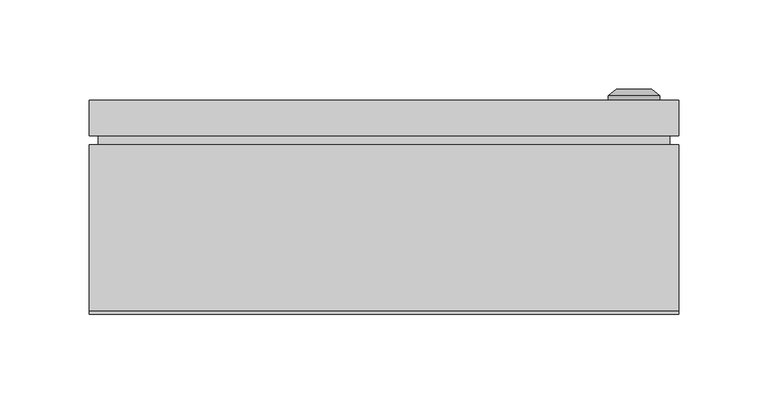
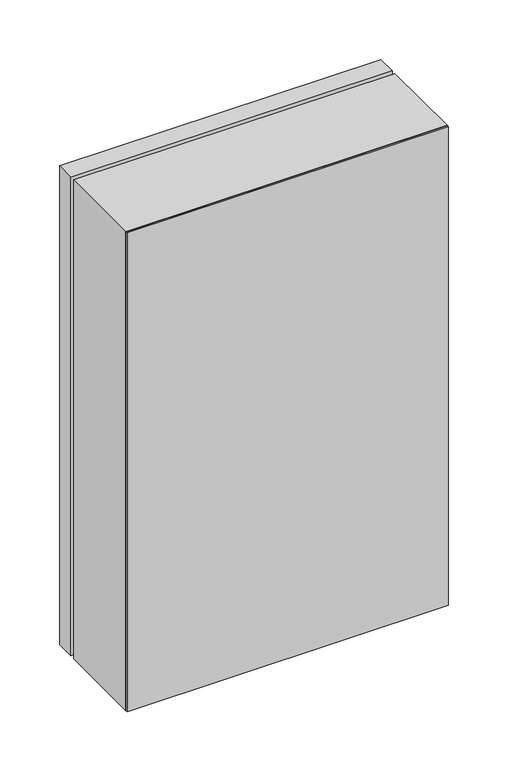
"""IFC4 building model written with IfcOpenShell, lengths in millimetres: proxy geometry, ЩРН-36_IP66 : ЩРН-36_IP66."""

from ifc_helpers import new_model, si_unit, frame, origin, origin_with_axes, place, context, project, spatial, polyline, circle_curve, outline, extrude, source, transform, mapped, element, save
from ifc_brep_helpers import plane_surface, cylinder_surface, revolved_surface, advanced_brep


def electrical_equipment_2eaa364d(model_context):
    return source(origin(), model_context, "Body", "SolidModel", [
        extrude(outline(polyline([(160.0, 95.0), (-160.0, 95.0), (-160.0, 100.0), (160.0, 100.0), (160.0, 95.0)])), frame((0.0, 0.0, 5.0), z_axis=(0.0, 0.0, 1.0), x_axis=(1.0, 0.0, 0.0)), (0.0, 0.0, 1.0), 510.0),
        extrude(outline(polyline([(165.0, 100.0), (-165.0, 100.0), (-165.0, 120.0), (165.0, 120.0), (165.0, 100.0)])), origin_with_axes(), (0.0, 0.0, 1.0), 520.0),
        advanced_brep(
        [(125.669873, 120.0, 257.5), (154.330127, 120.0, 257.5), (140.0, 120.0, 257.5), (125.669873, 122.366592, 257.5), (154.330127, 122.366592, 257.5), (130.0, 126.0, 257.5), (150.0, 126.0, 257.5), (138.1080471, 126.0, 257.5), (141.8919529, 126.0, 257.5), (138.1080471, 124.9822294, 257.5), (141.8919529, 124.9822294, 257.5), (140.0, 124.9822294, 257.5)],
        [
            (0, 1, circle_curve(frame((140.0, 120.0, 257.5), z_axis=(0.0, -1.0, 0.0), x_axis=(1.0, 0.0, 0.0)), 14.330127)),
            (1, 2),
            (2, 0),
            (1, 0, circle_curve(frame((140.0, 120.0, 257.5), z_axis=(0.0, -1.0, 0.0), x_axis=(1.0, 0.0, 0.0)), 14.330127)),
            (3, 4, circle_curve(frame((140.0, 122.366592, 257.5), z_axis=(0.0, -1.0, 0.0), x_axis=(1.0, 0.0, 0.0)), 14.330127)),
            (4, 1),
            (0, 3),
            (4, 3, circle_curve(frame((140.0, 122.366592, 257.5), z_axis=(0.0, -1.0, 0.0), x_axis=(1.0, 0.0, 0.0)), 14.330127)),
            (5, 6, circle_curve(frame((140.0, 126.0, 257.5), z_axis=(0.0, -1.0, 0.0), x_axis=(1.0, 0.0, 0.0)), 10.0)),
            (6, 4),
            (3, 5),
            (6, 5, circle_curve(frame((140.0, 126.0, 257.5), z_axis=(0.0, -1.0, 0.0), x_axis=(1.0, 0.0, 0.0)), 10.0)),
            (7, 8, circle_curve(frame((140.0, 126.0, 257.5), z_axis=(0.0, -1.0, 0.0), x_axis=(1.0, 0.0, 0.0)), 1.8919529)),
            (8, 6),
            (5, 7),
            (8, 7, circle_curve(frame((140.0, 126.0, 257.5), z_axis=(0.0, -1.0, 0.0), x_axis=(1.0, 0.0, 0.0)), 1.8919529)),
            (9, 10, circle_curve(frame((140.0, 124.9822294, 257.5), z_axis=(0.0, -1.0, 0.0), x_axis=(1.0, 0.0, 0.0)), 1.8919529)),
            (10, 8),
            (7, 9),
            (10, 9, circle_curve(frame((140.0, 124.9822294, 257.5), z_axis=(0.0, -1.0, 0.0), x_axis=(1.0, 0.0, 0.0)), 1.8919529)),
            (11, 10),
            (9, 11),
        ],
        [
            plane_surface(frame((140.0, 120.0, 257.5), z_axis=(0.0, -1.0, 0.0), x_axis=(1.0, 0.0, 0.0))),
            cylinder_surface(frame((140.0, 133.1348851, 257.5), z_axis=(0.0, 1.0, 0.0), x_axis=(1.0, 0.0, 0.0)), 14.330127),
            revolved_surface(polyline([(154.330127, 122.366592, 257.5), (150.0, 126.0, 257.5)]), (140.0, 133.1348851, 257.5), (0.0, 1.0, 0.0)),
            plane_surface(frame((140.0, 126.0, 257.5), z_axis=(0.0, 1.0, 0.0), x_axis=(1.0, 0.0, 0.0))),
            revolved_surface(polyline([(141.8919529, 126.0, 257.5), (141.8919529, 124.9822294, 257.5)]), (140.0, 133.1348851, 257.5), (0.0, 1.0, 0.0)),
            plane_surface(frame((140.0, 124.9822294, 257.5), z_axis=(0.0, 1.0, 0.0), x_axis=(1.0, 0.0, 0.0))),
        ],
        [
            (0, [[1, 2, 3]]),
            (0, [[4, -3, -2]]),
            (1, [[5, 6, -1, 7]]),
            (1, [[8, -7, -4, -6]]),
            (2, [[9, 10, -5, 11]]),
            (2, [[12, -11, -8, -10]]),
            (3, [[13, 14, -9, 15]]),
            (3, [[16, -15, -12, -14]]),
            (4, [[17, 18, -13, 19]]),
            (4, [[20, -19, -16, -18]]),
            (5, [[21, -17, 22]]),
            (5, [[-22, -20, -21]]),
        ],
    ),
        extrude(outline(polyline([(520.0, -165.0033905), (0.0, -165.0033905), (0.0, 164.9966095), (520.0, 164.9966095), (520.0, -165.0033905)]), holes=[polyline([(485.0, -125.0033905), (485.0, 149.9966095), (30.0, 149.9966095), (30.0, -125.0033905), (485.0, -125.0033905)])]), frame((0.0, 2.0, 0.0), z_axis=(0.0, 1.0, 0.0), x_axis=(0.0, 0.0, 1.0)), (0.0, 0.0, 1.0), 93.0),
        extrude(outline(polyline([(165.0, 0.0), (-165.0, 0.0), (-165.0, 2.0), (165.0, 2.0), (165.0, 0.0)])), origin_with_axes(), (0.0, 0.0, 1.0), 520.0),
    ])


if __name__ == "__main__":
    model = new_model("IFC4")
    model_context = context("Model", 3, world=origin())
    ifc_project = project(units=[si_unit("LENGTHUNIT", "METRE", prefix="MILLI")], contexts=[model_context])
    site = spatial("IfcSite", under=ifc_project)
    building = spatial("IfcBuilding", under=site)
    placement = place(None, origin())
    electrical_equipment_shape = electrical_equipment_2eaa364d(model_context)
    element("IfcBuildingElementProxy", 1, Name="ЩРН-36_IP66 : ЩРН-36_IP66", ObjectType="ЩРН-36_IP66 : ЩРН-36_IP66", at=placement, inside=building, context=model_context, shape_type="MappedRepresentation", body=[
        mapped(electrical_equipment_shape, transform((0.0, 0.0, 0.0), x_axis=(1.0, 0.0, 0.0), y_axis=(0.0, 1.0, 0.0), z_axis=(0.0, 0.0, 1.0))),
    ])
    save(model, "model.ifc")
